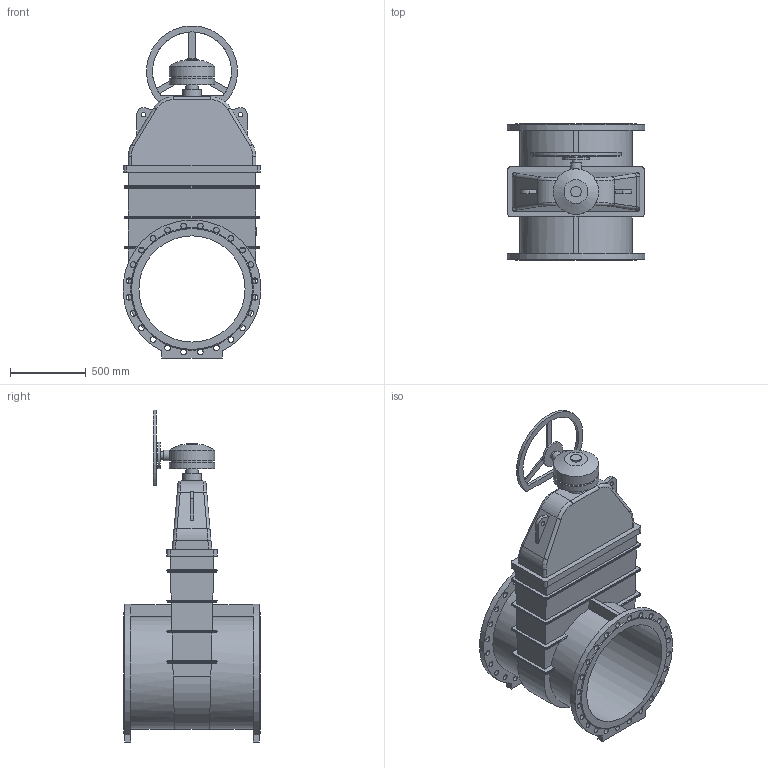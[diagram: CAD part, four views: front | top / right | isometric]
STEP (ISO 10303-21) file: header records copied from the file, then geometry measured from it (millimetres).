
FILE_DESCRIPTION(('STEP AP203'), '1');
FILE_NAME('Çàäâèæêà 47GV DN700 PN10_PN16_L900 + ðåäóêòîð ñ ìàõîâèêîì', '', ('UNSPECIFIED'), ('UNSPECIFIED'), 'ASCON STEP Converter 1.6', 'ASCON Math Kernel', '');
FILE_SCHEMA(('CONFIG_CONTROL_DESIGN'));
Length unit declared in the file: millimetre
Bounding box: 907.39 x 900 x 2188.91 mm (x, y, z)
Volume: 286078285.9 mm3; surface area: 8561859.4 mm2
Topology: 1 solids, 1 shells, 357 faces, 1007 edges, 643 vertices
Faces by surface type: cylinder 169, plane 145, bspline 40, cone 3
Full cylindrical faces by diameter (mm): 14 x8, 18 x8, 30 x3, 37 x48, 50 x1, 70 x2, 80 x1, 100 x1, 120 x1, 175 x1, 280 x1, 300 x2, 700 x1
Entity records: 21151 total; most frequent: CARTESIAN_POINT 9382, ORIENTED_EDGE 1854, DIRECTION 1774, EDGE_CURVE 927, AXIS2_PLACEMENT_3D 703, VERTEX_POINT 643, EDGE_LOOP 536, FACE_BOUND 429
